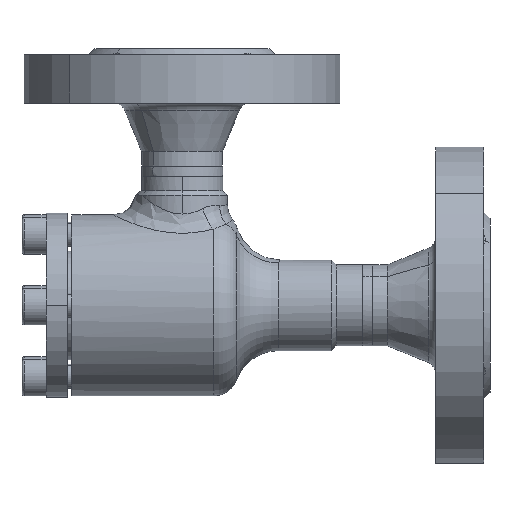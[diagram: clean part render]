
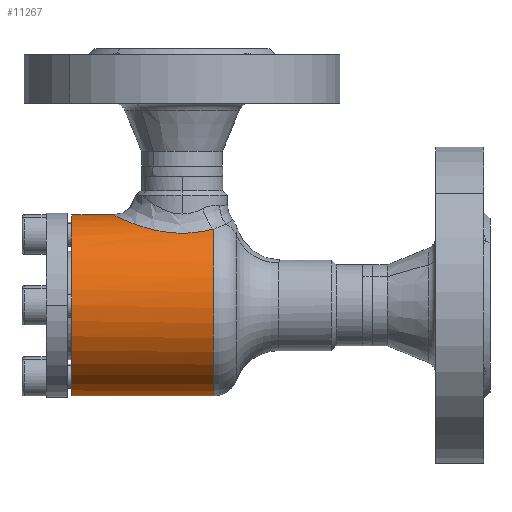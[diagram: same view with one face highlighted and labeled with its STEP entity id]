
A CAD part, left-side view. The second image highlights one B-rep face of the part: STEP entity #11267.
In plain terms, the highlighted cylindrical face has radius 30 mm (diameter 60 mm), a partial arc.
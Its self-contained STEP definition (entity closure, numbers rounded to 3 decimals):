
#105 = ORIENTED_EDGE ( 'NONE', *, *, #15589, .T. ) ;
#606 = VERTEX_POINT ( 'NONE', #13842 ) ;
#811 = EDGE_CURVE ( 'NONE', #9654, #606, #14281, .T. ) ;
#1162 = ORIENTED_EDGE ( 'NONE', *, *, #811, .T. ) ;
#1608 = ORIENTED_EDGE ( 'NONE', *, *, #9002, .F. ) ;
#3760 = FACE_OUTER_BOUND ( 'NONE', #11043, .T. ) ;
#3761 = CYLINDRICAL_SURFACE ( 'NONE', #3762, 30. ) ;
#3762 = AXIS2_PLACEMENT_3D ( 'NONE', #3763, #3764, #3765 ) ;
#3763 = CARTESIAN_POINT ( 'NONE',  ( 0., -55., 0. ) ) ;
#3764 = DIRECTION ( 'NONE',  ( 0., 1., 0. ) ) ;
#3765 = DIRECTION ( 'NONE',  ( 0., 0., 1. ) ) ;
#4260 = CIRCLE ( 'NONE', #4261, 30. ) ;
#4261 = AXIS2_PLACEMENT_3D ( 'NONE', #4262, #4263, #4264 ) ;
#4262 = CARTESIAN_POINT ( 'NONE',  ( 0., 0., 0. ) ) ;
#4263 = DIRECTION ( 'NONE',  ( 0., 1., 0. ) ) ;
#4264 = DIRECTION ( 'NONE',  ( 0., 0., 1. ) ) ;
#4310 = VERTEX_POINT ( 'NONE', #11664 ) ;
#4693 = CARTESIAN_POINT ( 'NONE',  ( 0., -13.5, 30. ) ) ;
#4839 = LINE ( 'NONE', #4840, #4841 ) ;
#4840 = CARTESIAN_POINT ( 'NONE',  ( 0., -55., 30. ) ) ;
#4841 = VECTOR ( 'NONE', #4842, 1000. ) ;
#4842 = DIRECTION ( 'NONE',  ( 0., 1., 0. ) ) ;
#9002 = EDGE_CURVE ( 'NONE', #9654, #4310, #12964, .T. ) ;
#9654 = VERTEX_POINT ( 'NONE', #14270 ) ;
#11043 = EDGE_LOOP ( 'NONE', ( #1608, #1162, #105, #15106, #14628 ) ) ;
#11267 = ADVANCED_FACE ( 'NONE', ( #3760 ), #3761, .T. ) ;
#11499 = B_SPLINE_CURVE_WITH_KNOTS ( 'NONE', 3,
 ( #11500, #11501, #11502, #11503, #11504, #11505, #11506, #11507, #11508, #11509, #11510, #11511, #11512, #11513, #11514, #11515, #11516, #11519, #11520, #11521, #11522, #11523, #11524, #11525, #11526, #11527, #11528, #11529, #11530, #11531, #11532, #11533, #11534, #11535, #11536, #11537, #11538, #11539 ),
 .UNSPECIFIED., .F., .F.,
 ( 4, 2, 2, 2, 2, 2, 2, 2, 2, 2, 2, 2, 2, 2, 2, 2, 2, 2, 4 ),
 ( 0., 0.005, 0.008, 0.011, 0.012, 0.014, 0.016, 0.019, 0.022, 0.025, 0.027, 0.03, 0.033, 0.036, 0.037, 0.038, 0.04, 0.041, 0.044 ),
 .UNSPECIFIED. ) ;
#11500 = CARTESIAN_POINT ( 'NONE',  ( -16.155, -47., 25.279 ) ) ;
#11501 = CARTESIAN_POINT ( 'NONE',  ( -16.828, -45.338, 24.848 ) ) ;
#11502 = CARTESIAN_POINT ( 'NONE',  ( -17.328, -43.616, 24.493 ) ) ;
#11503 = CARTESIAN_POINT ( 'NONE',  ( -17.832, -40.935, 24.126 ) ) ;
#11504 = CARTESIAN_POINT ( 'NONE',  ( -17.958, -40.023, 24.032 ) ) ;
#11505 = CARTESIAN_POINT ( 'NONE',  ( -18.122, -38.204, 23.908 ) ) ;
#11506 = CARTESIAN_POINT ( 'NONE',  ( -18.161, -37.293, 23.878 ) ) ;
#11507 = CARTESIAN_POINT ( 'NONE',  ( -18.156, -35.923, 23.882 ) ) ;
#11508 = CARTESIAN_POINT ( 'NONE',  ( -18.143, -35.466, 23.892 ) ) ;
#11509 = CARTESIAN_POINT ( 'NONE',  ( -18.096, -34.55, 23.928 ) ) ;
#11510 = CARTESIAN_POINT ( 'NONE',  ( -18.062, -34.091, 23.954 ) ) ;
#11511 = CARTESIAN_POINT ( 'NONE',  ( -17.926, -32.721, 24.056 ) ) ;
#11512 = CARTESIAN_POINT ( 'NONE',  ( -17.793, -31.82, 24.155 ) ) ;
#11513 = CARTESIAN_POINT ( 'NONE',  ( -17.442, -30.042, 24.409 ) ) ;
#11514 = CARTESIAN_POINT ( 'NONE',  ( -17.225, -29.165, 24.564 ) ) ;
#11515 = CARTESIAN_POINT ( 'NONE',  ( -16.704, -27.436, 24.921 ) ) ;
#11516 = CARTESIAN_POINT ( 'NONE',  ( -16.402, -26.59, 25.122 ) ) ;
#11519 = CARTESIAN_POINT ( 'NONE',  ( -15.719, -24.949, 25.555 ) ) ;
#11520 = CARTESIAN_POINT ( 'NONE',  ( -15.337, -24.151, 25.788 ) ) ;
#11521 = CARTESIAN_POINT ( 'NONE',  ( -14.485, -22.599, 26.276 ) ) ;
#11522 = CARTESIAN_POINT ( 'NONE',  ( -14.015, -21.845, 26.531 ) ) ;
#11523 = CARTESIAN_POINT ( 'NONE',  ( -12.999, -20.412, 27.043 ) ) ;
#11524 = CARTESIAN_POINT ( 'NONE',  ( -12.452, -19.731, 27.301 ) ) ;
#11525 = CARTESIAN_POINT ( 'NONE',  ( -11.27, -18.439, 27.81 ) ) ;
#11526 = CARTESIAN_POINT ( 'NONE',  ( -10.635, -17.829, 28.061 ) ) ;
#11527 = CARTESIAN_POINT ( 'NONE',  ( -9.263, -16.69, 28.544 ) ) ;
#11528 = CARTESIAN_POINT ( 'NONE',  ( -8.539, -16.173, 28.77 ) ) ;
#11529 = CARTESIAN_POINT ( 'NONE',  ( -7.392, -15.485, 29.078 ) ) ;
#11530 = CARTESIAN_POINT ( 'NONE',  ( -6.999, -15.27, 29.175 ) ) ;
#11531 = CARTESIAN_POINT ( 'NONE',  ( -6.191, -14.871, 29.357 ) ) ;
#11532 = CARTESIAN_POINT ( 'NONE',  ( -5.774, -14.687, 29.442 ) ) ;
#11533 = CARTESIAN_POINT ( 'NONE',  ( -4.926, -14.355, 29.596 ) ) ;
#11534 = CARTESIAN_POINT ( 'NONE',  ( -4.494, -14.208, 29.665 ) ) ;
#11535 = CARTESIAN_POINT ( 'NONE',  ( -3.613, -13.953, 29.785 ) ) ;
#11536 = CARTESIAN_POINT ( 'NONE',  ( -3.167, -13.845, 29.836 ) ) ;
#11537 = CARTESIAN_POINT ( 'NONE',  ( -1.824, -13.588, 29.958 ) ) ;
#11538 = CARTESIAN_POINT ( 'NONE',  ( -0.918, -13.5, 30. ) ) ;
#11539 = CARTESIAN_POINT ( 'NONE',  ( 0., -13.5, 30. ) ) ;
#11560 = CARTESIAN_POINT ( 'NONE',  ( 0., 0., 30. ) ) ;
#11664 = CARTESIAN_POINT ( 'NONE',  ( 0., 0., -30. ) ) ;
#12077 = VERTEX_POINT ( 'NONE', #4693 ) ;
#12240 = EDGE_CURVE ( 'NONE', #12077, #12308, #4839, .T. ) ;
#12308 = VERTEX_POINT ( 'NONE', #11560 ) ;
#12964 = LINE ( 'NONE', #12965, #12966 ) ;
#12965 = CARTESIAN_POINT ( 'NONE',  ( 0., -55., -30. ) ) ;
#12966 = VECTOR ( 'NONE', #12967, 1000. ) ;
#12967 = DIRECTION ( 'NONE',  ( 0., 1., 0. ) ) ;
#13842 = CARTESIAN_POINT ( 'NONE',  ( -16.155, -47., 25.279 ) ) ;
#14270 = CARTESIAN_POINT ( 'NONE',  ( 0., -47., -30. ) ) ;
#14281 = CIRCLE ( 'NONE', #14282, 30. ) ;
#14282 = AXIS2_PLACEMENT_3D ( 'NONE', #14283, #14286, #14287 ) ;
#14283 = CARTESIAN_POINT ( 'NONE',  ( 0., -47., 0. ) ) ;
#14284 = EDGE_CURVE ( 'NONE', #4310, #12308, #4260, .T. ) ;
#14286 = DIRECTION ( 'NONE',  ( 0., 1., 0. ) ) ;
#14287 = DIRECTION ( 'NONE',  ( 0., 0., 1. ) ) ;
#14628 = ORIENTED_EDGE ( 'NONE', *, *, #14284, .F. ) ;
#15106 = ORIENTED_EDGE ( 'NONE', *, *, #12240, .T. ) ;
#15589 = EDGE_CURVE ( 'NONE', #606, #12077, #11499, .T. ) ;
